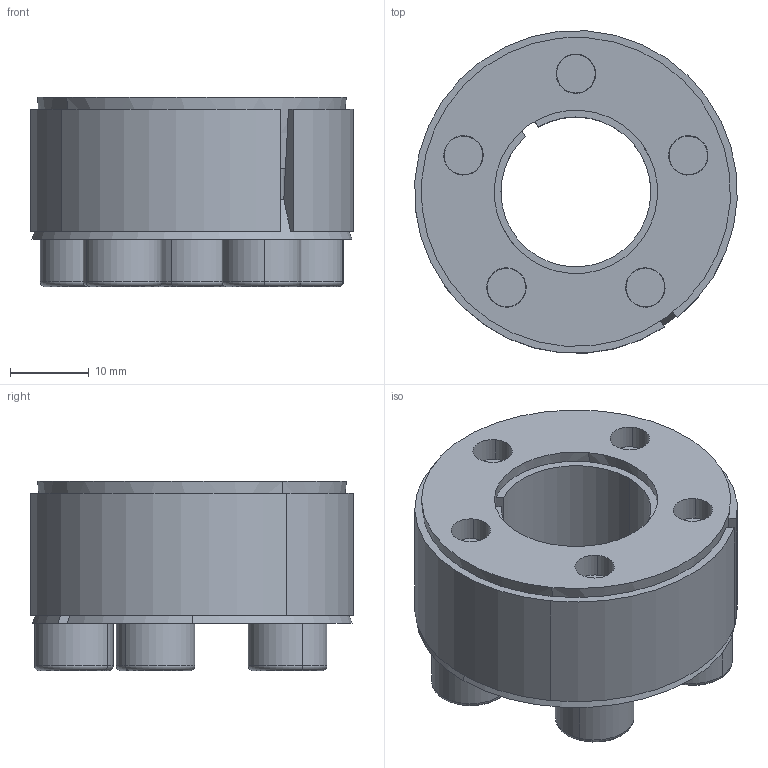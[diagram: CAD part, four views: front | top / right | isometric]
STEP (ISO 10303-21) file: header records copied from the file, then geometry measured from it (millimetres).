
FILE_DESCRIPTION (( 'STEP AP214' ), '1' );
FILE_NAME ('CONEX-L-19x41.step', '2013-04-06T13:22:15', ( 'Pc' ), ( '' ), 'SwSTEP 2.0', 'SolidWorks 2013', '' );
FILE_SCHEMA (( 'AUTOMOTIVE_DESIGN' ));
Length unit declared in the file: millimetre
Products named in the file (1): CONEX-L-19x41
Bounding box: 40.91 x 40.88 x 24.01 mm (x, y, z)
Volume: 17543.9 mm3; surface area: 15656.6 mm2
Topology: 8 solids, 8 shells, 192 faces, 441 edges, 265 vertices
Faces by surface type: plane 86, cylinder 50, cone 36, torus 20
Entity records: 7626 total; most frequent: DIRECTION 1018, CARTESIAN_POINT 922, ORIENTED_EDGE 862, EDGE_CURVE 431, AXIS2_PLACEMENT_3D 402, VERTEX_POINT 265, EDGE_LOOP 228, VECTOR 214
